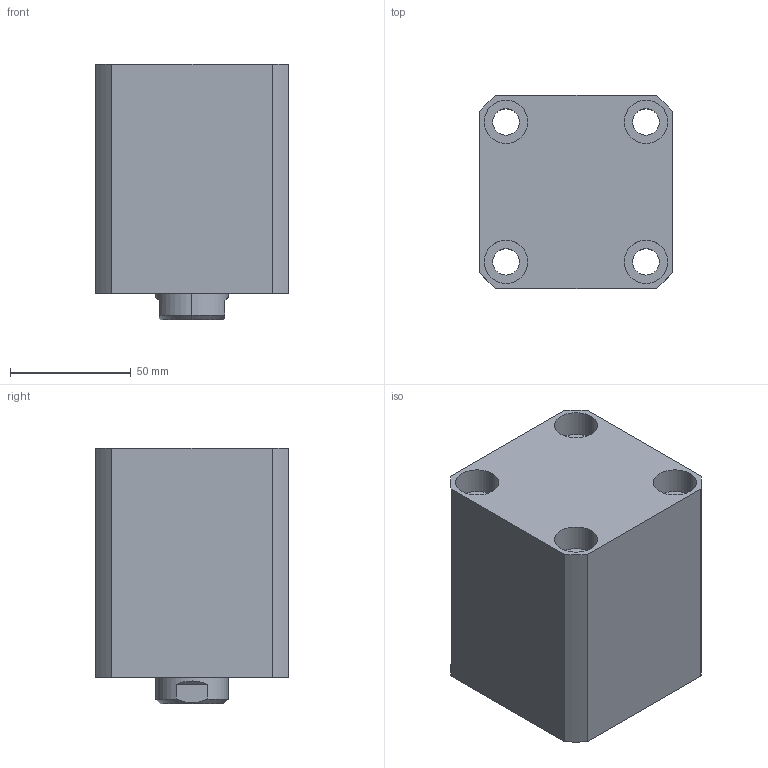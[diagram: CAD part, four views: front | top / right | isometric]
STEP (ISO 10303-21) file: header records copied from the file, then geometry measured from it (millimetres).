
FILE_DESCRIPTION (( 'STEP AP203' ), '1' );
FILE_NAME ('CHTB-SDMA50-35N.STEP', '2018-05-19T01:46:35', ( '' ), ( '' ), 'SwSTEP 2.0', 'SolidWorks 2015', '' );
FILE_SCHEMA (( 'CONFIG_CONTROL_DESIGN' ));
Length unit declared in the file: millimetre
Products named in the file (5): CHTB-SDMA50-35N; M6; CHTM-SDMA50QG; 活塞杆SDMA50-35N; 掛极SDMA50-35N
Assembly tree (5 placements, depth 2):
  CHTB-SDMA50-35N
    掛极SDMA50-35N
    CHTM-SDMA50QG
    M6  x2
    活塞杆SDMA50-35N
Bounding box: 80 x 80 x 106 mm (x, y, z)
Volume: 498910.4 mm3; surface area: 103782.4 mm2
Topology: 5 solids, 5 shells, 270 faces, 703 edges, 464 vertices
Faces by surface type: cylinder 139, plane 58, cone 31, bspline 26, torus 16
Entity records: 14133 total; most frequent: CARTESIAN_POINT 8131, ORIENTED_EDGE 1208, DIRECTION 1054, EDGE_CURVE 604, AXIS2_PLACEMENT_3D 433, VERTEX_POINT 403, EDGE_LOOP 277, ADVANCED_FACE 235
